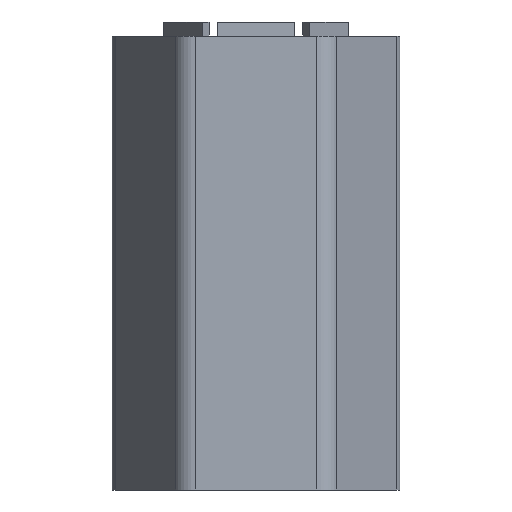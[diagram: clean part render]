
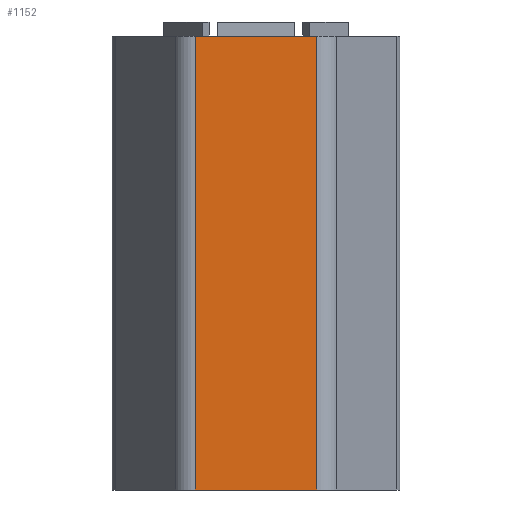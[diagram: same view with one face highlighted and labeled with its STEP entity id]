
A CAD part, left-side view. The second image highlights one B-rep face of the part: STEP entity #1152.
In plain terms, the highlighted planar face has unit normal (-1, 0, 0).
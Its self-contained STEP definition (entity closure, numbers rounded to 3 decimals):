
#39=LINE('',#1639,#153);
#83=LINE('',#2169,#197);
#97=LINE('',#2197,#211);
#99=LINE('',#2200,#213);
#153=VECTOR('',#1287,10.);
#197=VECTOR('',#1367,10.);
#211=VECTOR('',#1395,10.);
#213=VECTOR('',#1399,10.);
#275=PLANE('',#1234);
#336=FACE_OUTER_BOUND('',#400,.T.);
#400=EDGE_LOOP('',(#957,#958,#959,#960));
#500=VERTEX_POINT('',#1636);
#501=VERTEX_POINT('',#1638);
#572=VERTEX_POINT('',#2166);
#573=VERTEX_POINT('',#2168);
#615=EDGE_CURVE('',#500,#501,#39,.T.);
#708=EDGE_CURVE('',#572,#573,#83,.T.);
#723=EDGE_CURVE('',#501,#572,#97,.T.);
#725=EDGE_CURVE('',#573,#500,#99,.T.);
#957=ORIENTED_EDGE('',*,*,#723,.F.);
#958=ORIENTED_EDGE('',*,*,#615,.F.);
#959=ORIENTED_EDGE('',*,*,#725,.F.);
#960=ORIENTED_EDGE('',*,*,#708,.F.);
#1152=ADVANCED_FACE('',(#336),#275,.T.);
#1234=AXIS2_PLACEMENT_3D('',#2199,#1397,#1398);
#1287=DIRECTION('',(0.,-1.,0.));
#1367=DIRECTION('',(0.,1.,0.));
#1395=DIRECTION('',(0.,0.,-1.));
#1397=DIRECTION('center_axis',(-1.,0.,0.));
#1398=DIRECTION('ref_axis',(0.,-1.,0.));
#1399=DIRECTION('',(0.,0.,1.));
#1636=CARTESIAN_POINT('',(-22.5,10.681,77.));
#1638=CARTESIAN_POINT('',(-22.5,-10.681,77.));
#1639=CARTESIAN_POINT('',(-22.5,12.99,77.));
#2166=CARTESIAN_POINT('',(-22.5,-10.681,-3.));
#2168=CARTESIAN_POINT('',(-22.5,10.681,-3.));
#2169=CARTESIAN_POINT('',(-22.5,12.99,-3.));
#2197=CARTESIAN_POINT('',(-22.5,-10.681,0.));
#2199=CARTESIAN_POINT('Origin',(-22.5,12.99,0.));
#2200=CARTESIAN_POINT('',(-22.5,10.681,0.));
